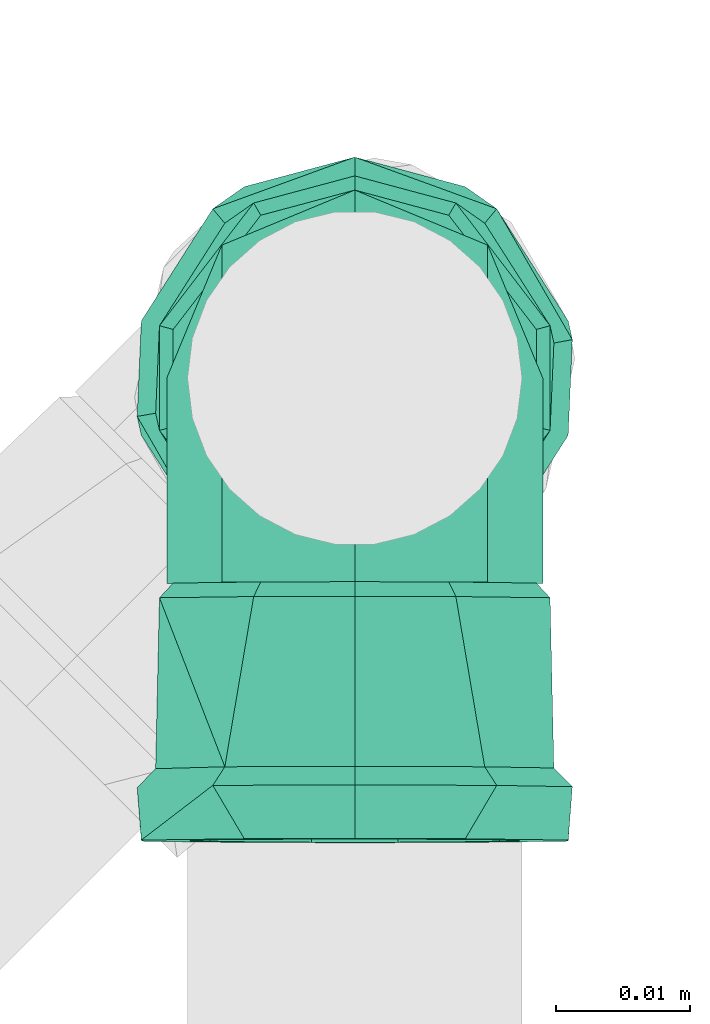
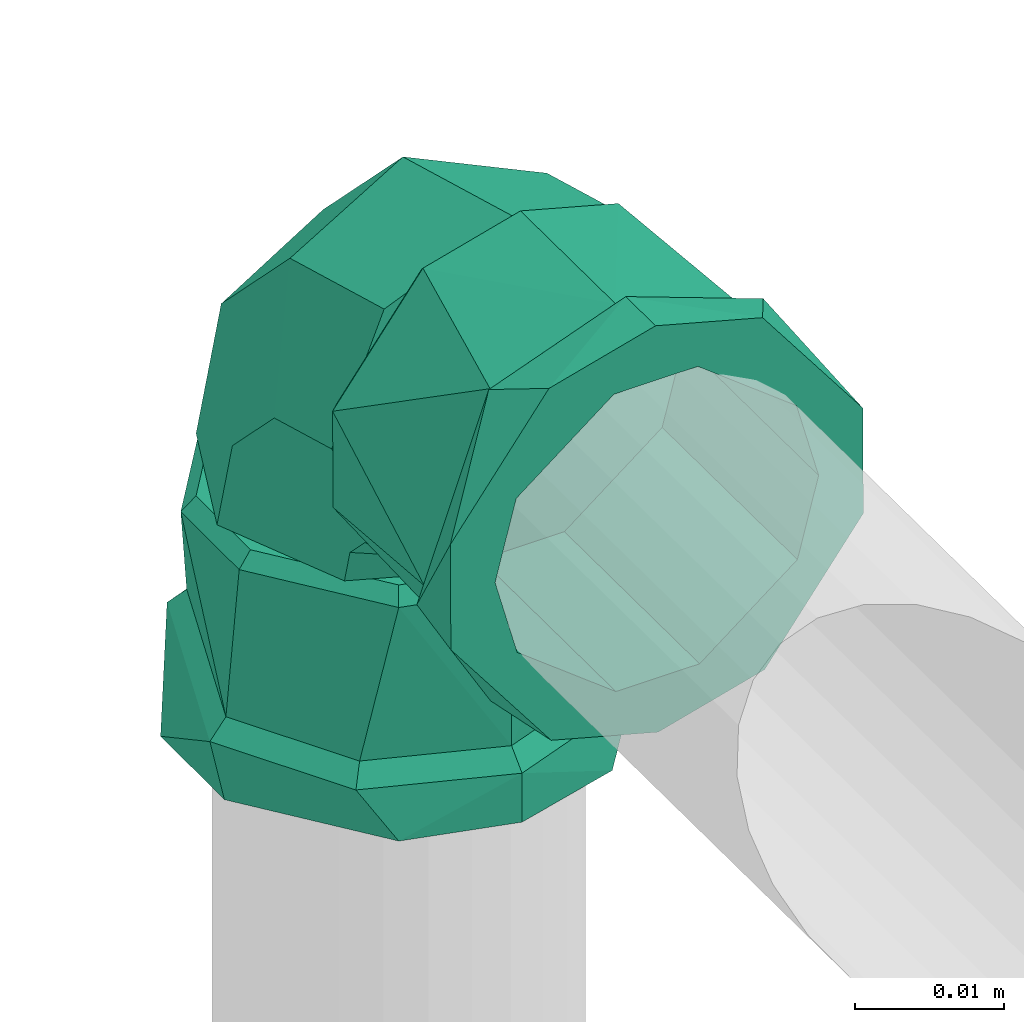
# One storey, part 387 of 589: 1 flow fitting.
"""IFC2X3 building model written with IfcOpenShell, lengths in millimetres."""

import ifcopenshell
import ifcopenshell.guid

model = None  # the IFC model being written
_history = None  # IfcOwnerHistory: only IFC2X3 demands one
_inside = {}  # id of a spatial element -> (the spatial element, [elements in it])
_under = {}  # id of a project, library or spatial element -> (it, [spatial elements below it])
_declared = {}  # id of a project -> (the project, [libraries it declares])
_typed = {}  # id of a type object -> (the type object, [elements of that type])
_made_of = {}  # id of a material, layer set ... -> (it, [elements and type objects made of it])


def new_model(schema):
    """Start an empty IFC model of exactly this schema.

    Asked for "IFC4X3", IfcOpenShell would pick the latest addendum, in which some entities
    have other attributes; the version numbers below select the first issue.
    IFC2X3 requires an IfcOwnerHistory on every rooted entity: one is made here for all.
    """
    global model, _history
    if schema == "IFC4X3":
        model = ifcopenshell.file(schema_version=(4, 3, 0, 0))
    else:
        model = ifcopenshell.file(schema=schema)
    _inside.clear()
    _under.clear()
    _declared.clear()
    _typed.clear()
    _made_of.clear()
    _history = None
    if model.schema == "IFC2X3":
        org = make("IfcOrganization", Name="unknown")
        user = make(
            "IfcPersonAndOrganization",
            ThePerson=make("IfcPerson", FamilyName="unknown"),
            TheOrganization=org,
        )
        app = make(
            "IfcApplication",
            ApplicationDeveloper=org,
            Version="unknown",
            ApplicationFullName="unknown",
            ApplicationIdentifier="unknown",
        )
        _history = make(
            "IfcOwnerHistory",
            OwningUser=user,
            OwningApplication=app,
            ChangeAction="ADDED",
            CreationDate=0,
        )
    return model


def make(cls, **values):
    """One entity of the class cls with the attributes given. An attribute that is None is left unset."""
    return model.create_entity(
        cls, **{name: value for name, value in values.items() if value is not None}
    )


def entity(cls, *values):
    """Any entity or typed value of the class cls, its attributes in the order of the schema. None: left unset."""
    e = model.create_entity(cls)
    for i, value in enumerate(values):
        if value is not None:
            e[i] = value
    return e


def rooted(cls, **values):
    """An entity with a GlobalId (a new one), such as an element, a storey or a relation."""
    return make(cls, GlobalId=ifcopenshell.guid.new(), OwnerHistory=_history, **values)


def si_unit(unit_type, name, prefix=None):
    """IfcSIUnit, for example si_unit("LENGTHUNIT", "METRE", prefix="MILLI")."""
    return make("IfcSIUnit", UnitType=unit_type, Prefix=prefix, Name=name)


def converted_unit(unit_type, name, factor, base, dimensions=None, offset=None):
    """IfcConversionBasedUnit, such as the inch: factor (a typed value) times the base unit."""
    return make(
        "IfcConversionBasedUnit"
        if offset is None
        else "IfcConversionBasedUnitWithOffset",
        ConversionOffset=offset,
        Dimensions=None
        if dimensions is None
        else entity("IfcDimensionalExponents", *dimensions),
        UnitType=unit_type,
        Name=name,
        ConversionFactor=make(
            "IfcMeasureWithUnit", ValueComponent=factor, UnitComponent=base
        ),
    )


def derived_unit(unit_type, elements):
    """IfcDerivedUnit: a product of units, each with its exponent."""
    return make(
        "IfcDerivedUnit",
        Elements=[
            make("IfcDerivedUnitElement", Unit=unit, Exponent=power)
            for unit, power in elements
        ],
        UnitType=unit_type,
    )


def assignment(units):
    """IfcUnitAssignment: the units of a project."""
    return None if units is None else make("IfcUnitAssignment", Units=units)


def point(xyz):
    """IfcCartesianPoint."""
    return None if xyz is None else make("IfcCartesianPoint", Coordinates=xyz)


def direction(xyz):
    """IfcDirection."""
    return None if xyz is None else make("IfcDirection", DirectionRatios=xyz)


def frame(location, z_axis=None, x_axis=None):
    """IfcAxis2Placement3D, a coordinate frame: its origin and axes. An axis left out is left unset."""
    return make(
        "IfcAxis2Placement3D",
        Location=point(location),
        Axis=direction(z_axis),
        RefDirection=direction(x_axis),
    )


def origin():
    """The frame at (0, 0, 0) with its axes left unset."""
    return frame((0.0, 0.0, 0.0))


def place(relative_to, where):
    """IfcLocalPlacement: puts the frame where relative to a parent placement (None: the world)."""
    return make(
        "IfcLocalPlacement", PlacementRelTo=relative_to, RelativePlacement=where
    )


def context(
    kind, dimensions, precision=None, world=None, true_north=None, identifier=None
):
    """IfcGeometricRepresentationContext, for example the 3D "Model" context."""
    return make(
        "IfcGeometricRepresentationContext",
        ContextIdentifier=identifier,
        ContextType=kind,
        CoordinateSpaceDimension=dimensions,
        Precision=precision,
        WorldCoordinateSystem=world,
        TrueNorth=true_north,
    )


def subcontext(parent, identifier, kind, view, scale=None):
    """IfcGeometricRepresentationSubContext, for example "Body" below "Model"."""
    return make(
        "IfcGeometricRepresentationSubContext",
        ContextIdentifier=identifier,
        ContextType=kind,
        ParentContext=parent,
        TargetScale=scale,
        TargetView=view,
    )


def project(units=None, contexts=None):
    """IfcProject with its units and contexts."""
    return rooted(
        "IfcProject",
        Name="project",
        RepresentationContexts=contexts,
        UnitsInContext=assignment(units),
    )


def spatial(cls, under=None, at=None, **own):
    """A site, building, storey or space (cls), placed at a placement, below another one or the project."""
    s = rooted(cls, ObjectPlacement=at, **own)
    if under is not None:
        _under.setdefault(under.id(), (under, []))[1].append(s)
    return s


def faces_of(points, faces, orient=None, outer=None):
    """IfcFace entities. A face is a list of loops; a loop is a list of indices into points, from 0.

    orient and outer hold one flag for each loop. By default every Orientation is true, the
    first loop of a face is its IfcFaceOuterBound and the others are IfcFaceBound.
    """
    made = []
    for i, loops in enumerate(faces):
        bounds = []
        for j, loop in enumerate(loops):
            is_outer = j == 0 if outer is None else outer[i][j]
            bounds.append(
                make(
                    "IfcFaceOuterBound" if is_outer else "IfcFaceBound",
                    Bound=make("IfcPolyLoop", Polygon=[points[k] for k in loop]),
                    Orientation=True if orient is None else orient[i][j],
                )
            )
        made.append(make("IfcFace", Bounds=bounds))
    return made


def faceted_brep(points, faces, orient=None, outer=None, voids=None):
    """IfcFacetedBrep: a solid bounded by flat faces; with voids (closed shells), ...WithVoids."""
    shared = [point(p) for p in points]
    hull = make("IfcClosedShell", CfsFaces=faces_of(shared, faces, orient, outer))
    if voids is None:
        return make("IfcFacetedBrep", Outer=hull)
    return make(
        "IfcFacetedBrepWithVoids",
        Outer=hull,
        Voids=[
            make(cls, CfsFaces=faces_of(shared, fs, o, b)) for cls, fs, o, b in voids
        ],
    )


def shape(context_of_items, identifier, shape_type, items):
    """IfcShapeRepresentation: the items that make up one representation, for example the "Body"."""
    return make(
        "IfcShapeRepresentation",
        ContextOfItems=context_of_items,
        RepresentationIdentifier=identifier,
        RepresentationType=shape_type,
        Items=items,
    )


def source(mapping_origin, context_of_items, identifier, shape_type, items):
    """IfcRepresentationMap: a shape defined once, which mapped items show again and again."""
    return make(
        "IfcRepresentationMap",
        MappingOrigin=mapping_origin,
        MappedRepresentation=shape(context_of_items, identifier, shape_type, items),
    )


def transform(
    local_origin,
    x_axis=None,
    y_axis=None,
    z_axis=None,
    scale=None,
    scale2=None,
    scale3=None,
    uniform=True,
):
    """IfcCartesianTransformationOperator3D, or its non-uniform kind. x_axis, y_axis, z_axis: its Axis1, 2, 3."""
    if uniform:
        return make(
            "IfcCartesianTransformationOperator3D",
            Axis1=direction(x_axis),
            Axis2=direction(y_axis),
            LocalOrigin=point(local_origin),
            Scale=scale,
            Axis3=direction(z_axis),
        )
    return make(
        "IfcCartesianTransformationOperator3DnonUniform",
        Axis1=direction(x_axis),
        Axis2=direction(y_axis),
        LocalOrigin=point(local_origin),
        Scale=scale,
        Axis3=direction(z_axis),
        Scale2=scale2,
        Scale3=scale3,
    )


def mapped(mapping_source, mapping_target):
    """IfcMappedItem: shows the shape of a source again, moved by a transform."""
    return make(
        "IfcMappedItem", MappingSource=mapping_source, MappingTarget=mapping_target
    )


def material(Name=None, Category=None):
    """IfcMaterial."""
    return make("IfcMaterial", Name=Name, Category=Category)


def made_of(thing, what):
    """Note that an element or type object is made of a material, layer set ...; save() writes the relation."""
    if what is not None:
        _made_of.setdefault(what.id(), (what, []))[1].append(thing)
    return thing


def type_object(cls, material=None, **own):
    """A type object (cls), such as IfcWallType, which elements share."""
    return made_of(rooted(cls, **own), material)


def type_shapes(of_type, sources):
    """Give a type object the sources (RepresentationMaps) that its elements show as mapped items."""
    of_type.RepresentationMaps = sources


def element(
    cls,
    number,
    at=None,
    inside=None,
    cuts=None,
    type_object=None,
    material=None,
    context=None,
    identifier="Body",
    shape_type=None,
    held_by="IfcProductDefinitionShape",
    body=None,
    shapes=None,
    **own,
):
    """One element of the class cls, such as IfcWall. Its Tag is "e" and its number.

    at: its placement. inside: the storey or other place that contains it. cuts: it is an
    opening in that element (IfcRelVoidsElement). A single representation is given by context,
    identifier, shape_type and body (its items); several are given by shapes. held_by: the class
    of the entity that holds the representations. save() writes the other relations.
    """
    e = rooted(cls, Tag="e%d" % number, ObjectPlacement=at, **own)
    if body is not None:
        shapes = [shape(context, identifier, shape_type, body)]
    if shapes is not None:
        e.Representation = make(held_by, Representations=shapes)
    if inside is not None:
        _inside.setdefault(inside.id(), (inside, []))[1].append(e)
    if cuts is not None:
        rooted(
            "IfcRelVoidsElement", RelatingBuildingElement=cuts, RelatedOpeningElement=e
        )
    if type_object is not None:
        _typed.setdefault(type_object.id(), (type_object, []))[1].append(e)
    return made_of(e, material)


def aggregate(whole, parts):
    """IfcRelAggregates: a whole, such as a stair, and the parts it consists of."""
    return rooted("IfcRelAggregates", RelatingObject=whole, RelatedObjects=parts)


def save(model, path):
    """Write the relations noted so far, then the file.

    IfcRelAggregates (storeys below a building ...), IfcRelContainedInSpatialStructure (elements
    in a storey), IfcRelDefinesByType, IfcRelAssociatesMaterial and IfcRelDeclares: one each for
    every whole, place, type object, material and project.
    """
    for whole, parts in _under.values():
        aggregate(whole, parts)
    for where, things in _inside.values():
        rooted(
            "IfcRelContainedInSpatialStructure",
            RelatedElements=things,
            RelatingStructure=where,
        )
    for kind, things in _typed.values():
        rooted("IfcRelDefinesByType", RelatedObjects=things, RelatingType=kind)
    for what, things in _made_of.values():
        rooted("IfcRelAssociatesMaterial", RelatedObjects=things, RelatingMaterial=what)
    for by, libraries in _declared.values():
        rooted("IfcRelDeclares", RelatingContext=by, RelatedDefinitions=libraries)
    model.write(path)


model = new_model("IFC2X3")

# Units and contexts
model_context = context("Model", 3, precision=0.01, world=origin(), true_north=direction((6.123031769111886e-17, 1.0)))
body_context = subcontext(model_context, "Body", "Model", "MODEL_VIEW")
ifc_project = project(units=[si_unit("LENGTHUNIT", "METRE", prefix="MILLI"), si_unit("AREAUNIT", "SQUARE_METRE"), si_unit("VOLUMEUNIT", "CUBIC_METRE"), converted_unit("PLANEANGLEUNIT", "DEGREE", entity("IfcRatioMeasure", 0.017453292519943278), si_unit("PLANEANGLEUNIT", "RADIAN"), dimensions=[0, 0, 0, 0, 0, 0, 0]), si_unit("MASSUNIT", "GRAM", prefix="KILO"), derived_unit("MASSDENSITYUNIT", [(si_unit("MASSUNIT", "GRAM", prefix="KILO"), 1), (si_unit("LENGTHUNIT", "METRE"), -3)]), derived_unit("IONCONCENTRATIONUNIT", [(si_unit("MASSUNIT", "GRAM", prefix="KILO"), 1), (si_unit("LENGTHUNIT", "METRE"), -3)]), derived_unit("MOMENTOFINERTIAUNIT", [(si_unit("LENGTHUNIT", "METRE"), 4)]), si_unit("TIMEUNIT", "SECOND"), si_unit("FREQUENCYUNIT", "HERTZ"), si_unit("THERMODYNAMICTEMPERATUREUNIT", "DEGREE_CELSIUS"), derived_unit("THERMALTRANSMITTANCEUNIT", [(si_unit("MASSUNIT", "GRAM", prefix="KILO"), 1), (si_unit("THERMODYNAMICTEMPERATUREUNIT", "KELVIN"), -1), (si_unit("TIMEUNIT", "SECOND"), -3)]), derived_unit("THERMALCONDUCTANCEUNIT", [(si_unit("MASSUNIT", "GRAM", prefix="KILO"), 1), (si_unit("THERMODYNAMICTEMPERATUREUNIT", "KELVIN"), -1), (si_unit("TIMEUNIT", "SECOND"), -3), (si_unit("LENGTHUNIT", "METRE"), 1)]), derived_unit("VOLUMETRICFLOWRATEUNIT", [(si_unit("LENGTHUNIT", "METRE"), 3), (si_unit("TIMEUNIT", "SECOND"), -1)]), derived_unit("MASSFLOWRATEUNIT", [(si_unit("MASSUNIT", "GRAM", prefix="KILO"), 1), (si_unit("TIMEUNIT", "SECOND"), -1)]), derived_unit("ROTATIONALFREQUENCYUNIT", [(si_unit("TIMEUNIT", "SECOND"), -1)]), si_unit("ELECTRICCURRENTUNIT", "AMPERE"), si_unit("ELECTRICVOLTAGEUNIT", "VOLT"), si_unit("POWERUNIT", "WATT"), si_unit("FORCEUNIT", "NEWTON", prefix="KILO"), si_unit("ILLUMINANCEUNIT", "LUX"), si_unit("LUMINOUSFLUXUNIT", "LUMEN"), si_unit("LUMINOUSINTENSITYUNIT", "CANDELA"), derived_unit("USERDEFINED", [(si_unit("MASSUNIT", "GRAM", prefix="KILO"), -1), (si_unit("LENGTHUNIT", "METRE"), -2), (si_unit("TIMEUNIT", "SECOND"), 3), (si_unit("LUMINOUSFLUXUNIT", "LUMEN"), 1)]), derived_unit("USERDEFINED", [(si_unit("MASSUNIT", "GRAM", prefix="KILO"), 1), (si_unit("TIMEUNIT", "SECOND"), -3), (si_unit("LENGTHUNIT", "METRE"), 3), (si_unit("ELECTRICCURRENTUNIT", "AMPERE"), -2)]), derived_unit("SOUNDPOWERUNIT", [(si_unit("MASSUNIT", "GRAM", prefix="KILO"), 1), (si_unit("TIMEUNIT", "SECOND"), -3), (si_unit("LENGTHUNIT", "METRE"), 2)]), derived_unit("SOUNDPRESSUREUNIT", [(si_unit("MASSUNIT", "GRAM", prefix="KILO"), 1), (si_unit("LENGTHUNIT", "METRE"), -1), (si_unit("TIMEUNIT", "SECOND"), -2)]), derived_unit("LINEARVELOCITYUNIT", [(si_unit("LENGTHUNIT", "METRE"), 1), (si_unit("TIMEUNIT", "SECOND"), -1)]), si_unit("PRESSUREUNIT", "PASCAL"), derived_unit("USERDEFINED", [(si_unit("MASSUNIT", "GRAM", prefix="KILO"), 1), (si_unit("LENGTHUNIT", "METRE"), -2), (si_unit("TIMEUNIT", "SECOND"), -2)]), derived_unit("LINEARFORCEUNIT", [(si_unit("MASSUNIT", "GRAM", prefix="KILO"), 1), (si_unit("TIMEUNIT", "SECOND"), -2)]), derived_unit("PLANARFORCEUNIT", [(si_unit("MASSUNIT", "GRAM", prefix="KILO"), 1), (si_unit("LENGTHUNIT", "METRE"), -1), (si_unit("TIMEUNIT", "SECOND"), -2)]), derived_unit("SPECIFICHEATCAPACITYUNIT", [(si_unit("THERMODYNAMICTEMPERATUREUNIT", "KELVIN"), -1), (si_unit("LENGTHUNIT", "METRE"), 2), (si_unit("TIMEUNIT", "SECOND"), -2)]), derived_unit("HEATINGVALUEUNIT", [(si_unit("LENGTHUNIT", "METRE"), 2), (si_unit("TIMEUNIT", "SECOND"), -2)]), derived_unit("VAPORPERMEABILITYUNIT", [(si_unit("LENGTHUNIT", "METRE"), -1), (si_unit("TIMEUNIT", "SECOND"), 1)]), derived_unit("DYNAMICVISCOSITYUNIT", [(si_unit("MASSUNIT", "GRAM", prefix="KILO"), 1), (si_unit("TIMEUNIT", "SECOND"), -1), (si_unit("LENGTHUNIT", "METRE"), -1)]), derived_unit("THERMALEXPANSIONCOEFFICIENTUNIT", [(si_unit("THERMODYNAMICTEMPERATUREUNIT", "KELVIN"), -1)]), derived_unit("MODULUSOFELASTICITYUNIT", [(si_unit("MASSUNIT", "GRAM", prefix="KILO"), 1), (si_unit("LENGTHUNIT", "METRE"), -1), (si_unit("TIMEUNIT", "SECOND"), -2)]), derived_unit("ISOTHERMALMOISTURECAPACITYUNIT", [(si_unit("LENGTHUNIT", "METRE"), 3), (si_unit("MASSUNIT", "GRAM", prefix="KILO"), -1)]), derived_unit("MOISTUREDIFFUSIVITYUNIT", [(si_unit("TIMEUNIT", "SECOND"), -1), (si_unit("LENGTHUNIT", "METRE"), 2)])], contexts=[model_context])

# Site, building, storey
site_placement = place(None, origin())
site = spatial("IfcSite", under=ifc_project, at=site_placement, Name="Default", CompositionType="ELEMENT")
building_placement = place(site_placement, origin())
building = spatial("IfcBuilding", under=site, at=building_placement, CompositionType="ELEMENT")
storey_placement = place(building_placement, frame((0.0, 0.0, 100.0)))
storey = spatial("IfcBuildingStorey", under=building, at=storey_placement, Name="TÉRREO", CompositionType="ELEMENT", Elevation=100.0)

# Flow fitting
ifc_material = material(Name="PVC Marrom")
pipe_fitting_type = type_object("IfcPipeFittingType", Name="PVC Marrom Soldável_Joelho 45°_90°_Rodrigo MEP:Joelho", PredefinedType="NOTDEFINED", material=ifc_material)
shared_shape = source(origin(), body_context, "Body", "Brep", [
    faceted_brep([(4.072421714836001, -16.405873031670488, 14.585479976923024), (-3.7435226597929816, -16.48403247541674, 14.585479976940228), (-12.911880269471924, -16.57571605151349, 7.549999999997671), (-14.934795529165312, -16.59594520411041, 0.0), (-12.91188026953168, -16.575716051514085, -7.550000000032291), (-3.7435226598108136, -16.48403247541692, -14.585479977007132), (4.07242171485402, -16.405873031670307, -14.585479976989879), (13.240779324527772, -16.314189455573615, -7.55000000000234), (15.263694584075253, -16.29396030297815, 0.0), (13.240779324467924, -16.314189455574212, 7.549999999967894), (3.7870877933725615, -15.308671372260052, 13.561598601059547), (12.31183884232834, -15.223423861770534, 7.019999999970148), (14.192748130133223, -15.204614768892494, 0.0), (12.311838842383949, -15.223423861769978, -7.02000000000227), (3.7870877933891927, -15.308671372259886, -13.561598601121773), (-3.480187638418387, -15.381344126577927, -13.561598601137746), (-12.004938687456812, -15.466591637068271, -7.020000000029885), (-13.885847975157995, -15.485400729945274, 0.0), (-12.004938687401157, -15.466591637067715, 7.0199999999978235), (-3.4801876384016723, -15.38134412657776, 13.561598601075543)], [[[0, 1, 2, 3, 4, 5, 6, 7, 8, 9]], [[10, 11, 12, 13, 14, 15, 16, 17, 18, 19]], [[13, 12, 8, 7]], [[14, 13, 7, 6]], [[6, 5, 15, 14]], [[16, 15, 5, 4]], [[17, 16, 4, 3]], [[18, 17, 3, 2]], [[19, 18, 2, 1]], [[1, 0, 10, 19]], [[11, 10, 0, 9]], [[12, 11, 9, 8]]]),
    faceted_brep([(-16.445774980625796, -3.908167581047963, 14.585479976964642), (-16.445774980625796, 3.908167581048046, 14.585479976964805), (-16.445774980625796, 13.076983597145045, 7.550000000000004), (-16.445774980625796, 15.100000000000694, 0.0), (-16.445774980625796, 13.0769835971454, -7.550000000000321), (-16.445774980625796, 3.9081675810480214, -14.585479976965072), (-16.445774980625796, -3.9081675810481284, -14.58547997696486), (-16.445774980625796, -13.076983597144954, -7.54999999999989), (-16.445774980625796, -15.099999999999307, 0.0), (-16.445774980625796, -13.076983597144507, 7.549999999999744), (-15.345774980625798, 3.633819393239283, 13.56159860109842), (-15.345774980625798, -3.6338193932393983, 13.561598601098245), (-15.345774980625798, -12.158996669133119, 7.019999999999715), (-15.345774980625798, -14.040000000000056, 0.0), (-15.345774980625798, -12.158996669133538, -7.019999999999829), (-15.345774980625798, -3.6338193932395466, -13.56159860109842), (-15.345774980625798, 3.63381939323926, -13.561598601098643), (-15.345774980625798, 12.158996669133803, -7.020000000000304), (-15.345774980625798, 14.039999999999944, 0.0), (-15.345774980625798, 12.15899666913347, 7.020000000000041)], [[[0, 1, 2, 3, 4, 5, 6, 7, 8, 9]], [[10, 11, 12, 13, 14, 15, 16, 17, 18, 19]], [[14, 13, 8, 7]], [[15, 14, 7, 6]], [[6, 5, 16, 15]], [[17, 16, 5, 4]], [[18, 17, 4, 3]], [[19, 18, 3, 2]], [[10, 19, 2, 1]], [[1, 0, 11, 10]], [[12, 11, 0, 9]], [[13, 12, 9, 8]]]),
    faceted_brep([(-34.545774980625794, 0.0, -12.5), (-34.545774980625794, 6.250000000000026, -10.825317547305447), (-34.545774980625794, 4.2705142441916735, -15.937776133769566), (-34.545774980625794, -4.270514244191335, -15.937776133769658), (-34.545774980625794, -6.250000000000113, -10.82531754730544), (-34.545774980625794, 14.289419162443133, -8.25000000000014), (-34.545774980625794, 12.074072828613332, -3.23523806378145), (-34.545774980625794, 16.5, 0.0), (-34.545774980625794, 12.074072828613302, 3.2352380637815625), (-34.545774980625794, 14.289419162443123, 8.249999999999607), (-34.545774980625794, 6.249999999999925, 10.825317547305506), (-34.545774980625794, 4.27051424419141, 15.937776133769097), (-34.545774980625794, 0.0, 12.5), (-34.545774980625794, -4.270514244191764, 15.937776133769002), (-34.545774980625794, -6.249999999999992, 10.825317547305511), (-34.545774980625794, -14.28941916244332, 8.249999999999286), (-34.545774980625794, -12.074072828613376, 3.2352380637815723), (-34.545774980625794, -16.5, 0.0), (-34.545774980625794, -12.074072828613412, -3.235238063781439), (-34.545774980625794, -14.289419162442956, -8.250000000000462), (-30.545774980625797, -16.5, 0.0), (-30.545774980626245, -12.639142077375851, 10.606700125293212), (-30.545774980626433, -4.885841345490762, 13.427814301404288), (-30.54577498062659, 2.8674593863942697, 16.24892847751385), (-30.545774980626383, 12.64180232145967, 10.603529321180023), (-30.545774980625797, 16.499999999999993, 0.0), (-30.545774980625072, 12.641802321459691, -10.603529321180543), (-30.545774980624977, 4.889209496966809, -13.426588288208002), (-30.54577498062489, -2.8633833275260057, -16.249647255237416), (-30.545774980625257, -12.639142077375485, -10.606700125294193), (-29.145774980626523, 11.56916454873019, 9.703835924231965), (-29.145774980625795, 15.099999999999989, 0.0), (-29.145774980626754, 2.624159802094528, 14.870231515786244), (-29.145774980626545, -4.471285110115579, 12.288484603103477), (-29.14577498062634, -11.566730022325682, 9.706737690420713), (-29.145774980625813, -15.099999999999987, 0.0), (-29.14577498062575, -11.566730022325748, -9.706737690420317), (-29.145774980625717, -2.620429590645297, -14.87088930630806), (-29.14577498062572, 4.4743674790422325, -12.287362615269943), (-29.145774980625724, 11.569164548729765, -9.703835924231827), (-16.445774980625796, 3.908167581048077, -14.585479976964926), (-16.445774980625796, 6.250000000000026, -10.825317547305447), (-16.445774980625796, 0.0, -12.5), (-16.445774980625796, 13.076983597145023, -7.549999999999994), (-16.445774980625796, -3.9081675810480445, -14.585479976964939), (-16.445774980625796, 12.074072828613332, -3.23523806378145), (-16.445774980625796, 15.099999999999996, 0.0), (-16.445774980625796, 12.074072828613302, 3.2352380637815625), (-16.445774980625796, 13.076983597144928, 7.550000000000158), (-16.445774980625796, 6.249999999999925, 10.825317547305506), (-16.445774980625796, 3.9081675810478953, 14.585479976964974), (-16.445774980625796, 0.0, 12.5), (-16.445774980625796, -3.9081675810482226, 14.58547997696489), (-16.445774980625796, -6.249999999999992, 10.825317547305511), (-16.445774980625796, -13.076983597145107, 7.549999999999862), (-16.445774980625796, -12.074072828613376, 3.2352380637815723), (-16.445774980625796, -15.100000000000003, 0.0), (-16.445774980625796, -12.074072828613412, -3.235238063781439), (-16.445774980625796, -13.076983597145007, -7.550000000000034), (-16.445774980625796, -6.250000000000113, -10.82531754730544)], [[[0, 1, 2]], [[2, 3, 0]], [[4, 0, 3]], [[5, 2, 1]], [[1, 6, 5]], [[6, 7, 5]], [[8, 7, 6]], [[7, 8, 9]], [[10, 9, 8]], [[9, 10, 11]], [[12, 11, 10]], [[13, 11, 12]], [[12, 14, 13]], [[13, 14, 15]], [[16, 15, 14]], [[15, 16, 17]], [[16, 18, 17]], [[19, 18, 4]], [[17, 18, 19]], [[3, 19, 4]], [[20, 15, 17]], [[20, 21, 15]], [[13, 15, 21]], [[13, 21, 22, 23]], [[9, 11, 24]], [[7, 9, 25]], [[23, 24, 11]], [[25, 9, 24]], [[13, 23, 11]], [[25, 5, 7]], [[25, 26, 5]], [[2, 5, 26]], [[2, 26, 27, 28]], [[19, 3, 29]], [[17, 19, 20]], [[28, 29, 3]], [[20, 19, 29]], [[2, 28, 3]], [[24, 30, 31, 25]], [[30, 24, 23, 32]], [[33, 32, 23, 22, 21, 34]], [[20, 35, 34, 21]], [[29, 36, 35, 20]], [[36, 29, 28, 37]], [[38, 37, 28, 27, 26, 39]], [[25, 31, 39, 26]], [[40, 41, 42]], [[41, 40, 43]], [[42, 44, 40]], [[43, 45, 41]], [[43, 46, 45]], [[45, 46, 47]], [[48, 47, 46]], [[47, 48, 49]], [[50, 49, 48]], [[49, 50, 51]], [[51, 50, 52]], [[52, 53, 51]], [[54, 53, 52]], [[53, 54, 55]], [[56, 55, 54]], [[56, 57, 55]], [[58, 57, 56]], [[59, 57, 58]], [[59, 58, 44]], [[44, 42, 59]], [[54, 34, 35]], [[56, 54, 35]], [[52, 34, 54]], [[52, 32, 33, 34]], [[30, 32, 50]], [[31, 30, 48]], [[50, 48, 30]], [[46, 31, 48]], [[52, 50, 32]], [[43, 39, 31]], [[46, 43, 31]], [[40, 39, 43]], [[40, 37, 38, 39]], [[36, 37, 44]], [[35, 36, 58]], [[44, 58, 36]], [[56, 35, 58]], [[40, 44, 37]], [[49, 51, 12, 10]], [[47, 49, 10, 8]], [[8, 6, 45, 47]], [[41, 45, 6, 1]], [[42, 41, 1, 0]], [[59, 42, 0, 4]], [[57, 59, 4, 18]], [[18, 16, 55, 57]], [[53, 55, 16, 14]], [[51, 53, 14, 12]]]),
    faceted_brep([(10.13758433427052, -0.5597858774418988, 0.0), (6.590082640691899, -2.6395915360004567, 9.92777920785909), (10.080732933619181, -15.245734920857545, 9.92777920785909), (14.192748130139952, -15.20461476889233, 0.0), (-1.9743440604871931, -7.660686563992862, 14.04), (0.15345007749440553, -15.34500774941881, 14.04), (-10.538770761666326, -12.681781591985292, 9.927779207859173), (-9.77383277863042, -15.444280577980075, 9.927779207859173), (-14.086272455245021, -14.761587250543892, 0.0), (-13.885847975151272, -15.48540072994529, 0.0), (-10.538770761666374, -12.681781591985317, -9.92777920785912), (-9.77383277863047, -15.444280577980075, -9.92777920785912), (-1.974344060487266, -7.660686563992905, -14.04), (0.15345007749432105, -15.34500774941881, -14.04), (6.590082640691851, -2.6395915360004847, -9.927779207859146), (10.080732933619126, -15.245734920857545, -9.927779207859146), (-0.6611286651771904, 10.131479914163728, 0.0), (-2.7053570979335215, 6.563358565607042, 9.92777920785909), (-7.640561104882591, -2.050848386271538, 14.04), (-12.575765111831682, -10.665055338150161, 9.927779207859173), (-14.619993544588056, -14.233176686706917, 0.0), (-12.57576511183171, -10.665055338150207, -9.92777920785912), (-7.640561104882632, -2.050848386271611, -14.04), (-2.705357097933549, 6.563358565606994, -9.927779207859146), (-15.345774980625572, 14.03999999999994, 0.0), (-15.3457749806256, 9.927779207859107, 9.92777920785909), (-15.345774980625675, 0.0, 14.04), (-15.345774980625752, -9.927779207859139, 9.927779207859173), (-15.345774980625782, -14.040000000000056, 0.0), (-15.345774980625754, -9.927779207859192, -9.92777920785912), (-15.345774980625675, 0.0, -14.04), (-15.3457749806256, 9.92777920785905, -9.927779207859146)], [[[0, 1, 2, 3]], [[1, 4, 5, 2]], [[4, 6, 7, 5]], [[6, 8, 9, 7]], [[8, 10, 11, 9]], [[10, 12, 13, 11]], [[12, 14, 15, 13]], [[14, 0, 3, 15]], [[16, 17, 1, 0]], [[17, 18, 4, 1]], [[18, 19, 6, 4]], [[19, 20, 8, 6]], [[20, 21, 10, 8]], [[21, 22, 12, 10]], [[22, 23, 14, 12]], [[23, 16, 0, 14]], [[24, 25, 17, 16]], [[25, 26, 18, 17]], [[26, 27, 19, 18]], [[27, 28, 20, 19]], [[28, 29, 21, 20]], [[29, 30, 22, 21]], [[30, 31, 23, 22]], [[31, 24, 16, 23]], [[3, 2, 5, 7, 9, 11, 13, 15]], [[31, 30, 29, 28, 27, 26, 25, 24]]]),
    faceted_brep([(-3.743522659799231, -16.484032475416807, -14.585479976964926), (-6.085237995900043, -16.507449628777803, -10.825317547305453), (0.16444952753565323, -16.444952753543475, -12.5), (-12.911880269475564, -16.575716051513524, -7.5499999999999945), (4.072421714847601, -16.40587303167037, -14.585479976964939), (-11.90901964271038, -16.565687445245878, -3.235238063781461), (-14.934795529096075, -16.595945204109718, 0.0), (-11.90901964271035, -16.565687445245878, 3.2352380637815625), (-12.911880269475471, -16.575716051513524, 7.550000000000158), (-6.08523799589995, -16.507449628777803, 10.825317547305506), (-3.7435226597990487, -16.484032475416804, 14.585479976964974), (0.16444952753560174, -16.444952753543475, 12.5), (4.0724217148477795, -16.40587303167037, 14.58547997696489), (6.414137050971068, -16.38245587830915, 10.825317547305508), (13.240779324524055, -16.31418945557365, 7.549999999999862), (12.23791869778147, -16.324218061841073, 3.2352380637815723), (15.263694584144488, -16.293960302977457, 0.0), (12.23791869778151, -16.324218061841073, -3.235238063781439), (13.240779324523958, -16.31418945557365, -7.550000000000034), (6.414137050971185, -16.38245587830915, -10.82531754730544), (11.85759490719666, -29.02865628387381, 9.706737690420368), (15.39068823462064, -28.99332535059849, 0.0), (2.911741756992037, -29.11811481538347, 14.870889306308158), (-11.27714295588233, -29.260003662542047, 9.703835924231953), (-4.182700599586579, -29.189059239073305, 12.287362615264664), (-14.807801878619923, -29.29531025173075, 0.0), (-11.27714295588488, -29.26000366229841, -9.703835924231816), (-2.332585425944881, -29.170558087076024, -14.870231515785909), (11.857594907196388, -29.028656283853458, -9.706737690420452), (4.76250474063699, -29.099607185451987, -12.28848460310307), (3.1727585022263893, -30.515574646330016, 16.248928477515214), (-4.580154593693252, -30.59310377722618, 13.427814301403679), (-16.193732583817, -30.709239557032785, 0.0), (-12.333067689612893, -30.670632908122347, 10.606700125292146), (12.946612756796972, -30.41783610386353, 10.603529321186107), (16.80461753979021, -30.37925605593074, 0.0), (12.946612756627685, -30.41783610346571, -10.603529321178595), (5.194407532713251, -30.495358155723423, -13.426588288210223), (-2.557797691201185, -30.572880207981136, -16.249647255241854), (-12.333067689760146, -30.670632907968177, -10.606700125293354), (0.34544047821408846, -34.54404782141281, -12.5), (-5.904247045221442, -34.606544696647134, -10.825317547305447), (-3.9248602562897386, -34.58675082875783, -15.937776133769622), (4.61574121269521, -34.50134481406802, -15.937776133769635), (6.595128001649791, -34.48155094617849, -10.82531754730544), (-13.94326426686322, -34.68693486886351, -8.24999999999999), (-11.72802869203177, -34.664782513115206, -3.23523806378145), (-16.153734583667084, -34.709039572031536, 0.0), (-11.72802869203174, -34.664782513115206, 3.2352380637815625), (-13.943264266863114, -34.68693486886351, 8.250000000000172), (-5.904247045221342, -34.606544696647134, 10.825317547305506), (-3.92486025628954, -34.58675082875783, 15.937776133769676), (0.34544047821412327, -34.54404782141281, 12.5), (4.615741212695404, -34.50134481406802, 15.937776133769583), (6.5951280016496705, -34.48155094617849, 10.825317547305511), (14.63414522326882, -34.40116077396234, 8.24999999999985), (12.418909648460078, -34.423313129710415, 3.2352380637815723), (16.844615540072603, -34.37905607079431, 0.0), (12.418909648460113, -34.423313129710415, -3.235238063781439), (14.634145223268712, -34.40116077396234, -8.250000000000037)], [[[0, 1, 2]], [[1, 0, 3]], [[2, 4, 0]], [[3, 5, 1]], [[3, 6, 5]], [[5, 6, 7]], [[8, 7, 6]], [[7, 8, 9]], [[10, 9, 8]], [[9, 10, 11]], [[11, 10, 12]], [[12, 13, 11]], [[14, 13, 12]], [[13, 14, 15]], [[16, 15, 14]], [[16, 17, 15]], [[18, 17, 16]], [[19, 17, 18]], [[19, 18, 4]], [[4, 2, 19]], [[14, 20, 21]], [[16, 14, 21]], [[12, 20, 14]], [[12, 22, 20]], [[10, 23, 24, 22]], [[25, 23, 8]], [[10, 8, 23]], [[6, 25, 8]], [[12, 10, 22]], [[3, 26, 25]], [[6, 3, 25]], [[0, 26, 3]], [[0, 27, 26]], [[4, 28, 29, 27]], [[21, 28, 18]], [[4, 18, 28]], [[16, 21, 18]], [[0, 4, 27]], [[30, 22, 31]], [[32, 23, 25]], [[33, 23, 32]], [[31, 24, 33]], [[34, 21, 20]], [[24, 23, 33]], [[20, 30, 34]], [[21, 34, 35]], [[24, 31, 22]], [[22, 30, 20]], [[36, 28, 21]], [[21, 35, 36]], [[36, 37, 28]], [[37, 29, 28]], [[37, 38, 29]], [[32, 25, 26]], [[27, 39, 26]], [[32, 26, 39]], [[27, 29, 38]], [[38, 39, 27]], [[40, 41, 42]], [[42, 43, 40]], [[44, 40, 43]], [[45, 42, 41]], [[41, 46, 45]], [[46, 47, 45]], [[48, 47, 46]], [[47, 48, 49]], [[50, 49, 48]], [[49, 50, 51]], [[52, 51, 50]], [[53, 51, 52]], [[52, 54, 53]], [[53, 54, 55]], [[56, 55, 54]], [[55, 56, 57]], [[56, 58, 57]], [[59, 58, 44]], [[57, 58, 59]], [[43, 59, 44]], [[35, 55, 57]], [[35, 34, 55]], [[53, 55, 34]], [[30, 53, 34]], [[49, 51, 33]], [[47, 49, 32]], [[51, 30, 31, 33]], [[32, 49, 33]], [[53, 30, 51]], [[32, 45, 47]], [[32, 39, 45]], [[42, 45, 39]], [[38, 42, 39]], [[59, 43, 36]], [[57, 59, 35]], [[43, 38, 37, 36]], [[35, 59, 36]], [[42, 38, 43]], [[9, 11, 52, 50]], [[7, 9, 50, 48]], [[48, 46, 5, 7]], [[1, 5, 46, 41]], [[2, 1, 41, 40]], [[19, 2, 40, 44]], [[17, 19, 44, 58]], [[58, 56, 15, 17]], [[13, 15, 56, 54]], [[11, 13, 54, 52]]]),
])
type_shapes(pipe_fitting_type, [shared_shape])
flow_fitting_placement = place(storey_placement, frame((3131.1245078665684, -6247.83679884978, 2576.374293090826), z_axis=(1.0, 0.0, 0.0), x_axis=(0.0, 0.9999500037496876, -0.009999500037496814)))
element("IfcFlowFitting", 1, at=flow_fitting_placement, inside=storey, type_object=pipe_fitting_type, material=ifc_material, Name="PVC Marrom Soldável_Joelho 45°_90°_Rodrigo MEP:Joelho", ObjectType="PVC Marrom Soldável_Joelho 45°_90°_Rodrigo MEP:Joelho", context=body_context, shape_type="MappedRepresentation", body=[
    mapped(shared_shape, transform((0.0, 0.0, 0.0), scale=1.0)),
])

save(model, "model.ifc")
